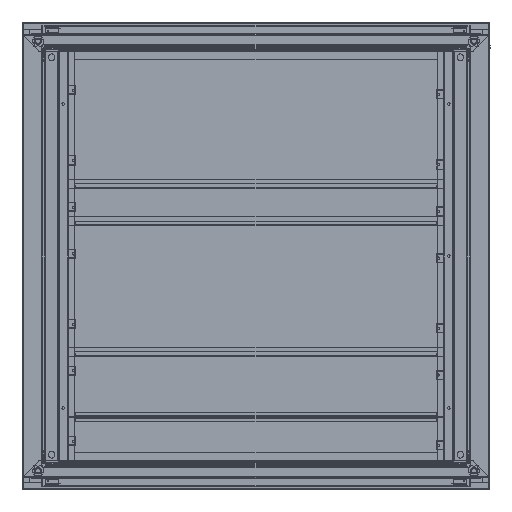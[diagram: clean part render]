
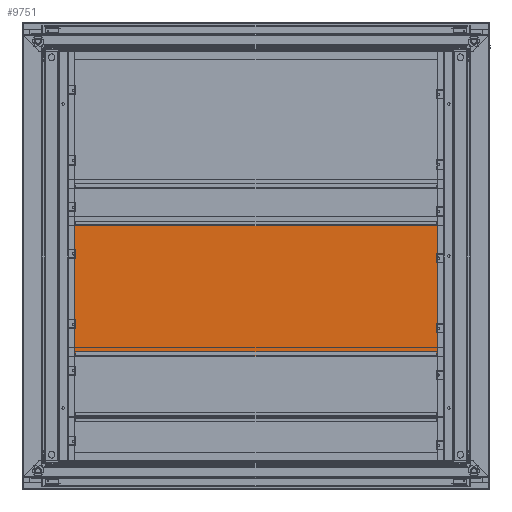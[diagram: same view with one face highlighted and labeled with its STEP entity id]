
A CAD part, front view. The second image highlights one B-rep face of the part: STEP entity #9751.
In plain terms, the highlighted planar face has unit normal (0, -1, 0) as drawn and (0, 1, 0) by its records, which use the part's own axes.
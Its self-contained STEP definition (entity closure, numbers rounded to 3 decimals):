
#9386=CARTESIAN_POINT(' ',(400.,0.,-149.));
#9391=DIRECTION(' ',(-1.,0.,0.));
#9396=VECTOR(' ',#9391,1.);
#9401=LINE('',#9386,#9396);
#9406=CARTESIAN_POINT(' ',(400.,0.,-149.));
#9407=VERTEX_POINT(' ',#9406);
#9411=CARTESIAN_POINT(' ',(-400.,0.,-149.));
#9412=VERTEX_POINT(' ',#9411);
#9416=EDGE_CURVE(' ',#9407,#9412,#9401,.T.);
#9541=DIRECTION(' ',(0.,1.,0.));
#9546=CARTESIAN_POINT(' ',(-400.,0.,-149.));
#9551=DIRECTION(' ',(0.,-0.,1.));
#9556=AXIS2_PLACEMENT_3D(' ',#9546,#9541,#9551);
#9561=PLANE('NONE',#9556);
#9566=CARTESIAN_POINT(' ',(385.,0.,149.));
#9571=DIRECTION(' ',(1.,0.,0.));
#9576=VECTOR(' ',#9571,1.);
#9581=LINE('',#9566,#9576);
#9586=CARTESIAN_POINT(' ',(385.,0.,149.));
#9587=VERTEX_POINT(' ',#9586);
#9591=CARTESIAN_POINT(' ',(400.,0.,149.));
#9592=VERTEX_POINT(' ',#9591);
#9596=EDGE_CURVE(' ',#9587,#9592,#9581,.T.);
#9601=ORIENTED_EDGE(' ',*,*,#9596,.T.);
#9606=CARTESIAN_POINT(' ',(400.,0.,149.));
#9611=DIRECTION(' ',(0.,0.,-1.));
#9616=VECTOR(' ',#9611,1.);
#9621=LINE('',#9606,#9616);
#9626=EDGE_CURVE(' ',#9592,#9407,#9621,.T.);
#9631=ORIENTED_EDGE(' ',*,*,#9626,.T.);
#9636=ORIENTED_EDGE(' ',*,*,#9416,.T.);
#9641=CARTESIAN_POINT(' ',(-400.,0.,-149.));
#9646=DIRECTION(' ',(0.,0.,1.));
#9651=VECTOR(' ',#9646,1.);
#9656=LINE('',#9641,#9651);
#9661=CARTESIAN_POINT(' ',(-400.,0.,149.));
#9662=VERTEX_POINT(' ',#9661);
#9666=EDGE_CURVE(' ',#9412,#9662,#9656,.T.);
#9671=ORIENTED_EDGE(' ',*,*,#9666,.T.);
#9676=CARTESIAN_POINT(' ',(-400.,0.,149.));
#9681=DIRECTION(' ',(1.,0.,0.));
#9686=VECTOR(' ',#9681,1.);
#9691=LINE('',#9676,#9686);
#9696=CARTESIAN_POINT(' ',(-385.,0.,149.));
#9697=VERTEX_POINT(' ',#9696);
#9701=EDGE_CURVE(' ',#9662,#9697,#9691,.T.);
#9706=ORIENTED_EDGE(' ',*,*,#9701,.T.);
#9711=CARTESIAN_POINT(' ',(-385.,0.,149.));
#9716=DIRECTION(' ',(1.,0.,0.));
#9721=VECTOR(' ',#9716,1.);
#9726=LINE('',#9711,#9721);
#9731=EDGE_CURVE(' ',#9697,#9587,#9726,.T.);
#9736=ORIENTED_EDGE(' ',*,*,#9731,.T.);
#9741=EDGE_LOOP(' ',(#9601,#9631,#9636,#9671,#9706,#9736));
#9746=FACE_OUTER_BOUND(' ',#9741,.T.);
#9751=ADVANCED_FACE('NONE',(#9746),#9561,.T.);
